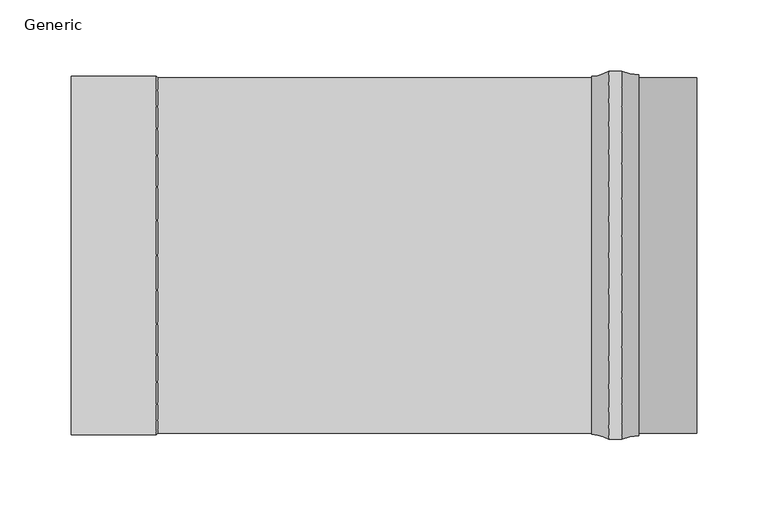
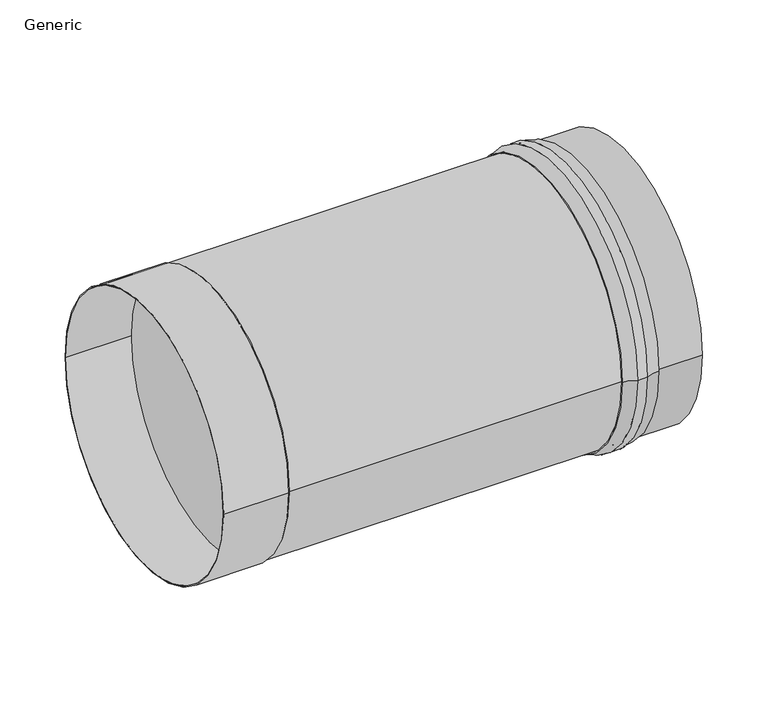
"""IFC4 building model written with IfcOpenShell, lengths in millimetres: pipe fitting geometry, CADS_Jeremias_Length_Socket : Generic."""

from ifc_helpers import new_model, si_unit, point, frame, origin, origin_2d, place, context, project, spatial, polyline, circle_curve, ellipse_curve, trimmed, segment, composite_curve, outline, extrude, source, transform, mapped, element, save
from ifc_brep_helpers import plane_surface, cylinder_surface, revolved_surface, advanced_brep


def generic_6cb5bec8(model_context):
    return source(origin(), model_context, "Body", "SolidModel", [
        advanced_brep(
        [(459.0, 125.0, 0.0), (459.0, 126.9765092, 0.0), (459.0, -126.9765092, 0.0), (459.0, -125.0, 0.0), (426.0, 125.0, 0.0), (426.0, -125.0, 0.0), (426.0, 125.9881891, 0.0), (426.0, -125.9881891, 0.0), (438.0, 129.4883201, 0.0), (438.0, -129.4883201, 0.0), (447.0, 129.4883201, 0.0), (447.0, -129.4883201, 0.0)],
        [
            (0, 1),
            (1, 2, circle_curve(frame((459.0, 0.0, 0.0), z_axis=(1.0, 0.0, 0.0), x_axis=(0.0, -1.0, 0.0)), 126.9765092)),
            (2, 3),
            (3, 0, circle_curve(frame((459.0, 0.0, 0.0), z_axis=(-1.0, 0.0, 0.0), x_axis=(0.0, -1.0, 0.0)), 125.0)),
            (2, 1, circle_curve(frame((459.0, 0.0, 0.0), z_axis=(1.0, 0.0, 0.0), x_axis=(0.0, -1.0, 0.0)), 126.9765092)),
            (0, 3, circle_curve(frame((459.0, 0.0, 0.0), z_axis=(-1.0, 0.0, 0.0), x_axis=(0.0, -1.0, 0.0)), 125.0)),
            (4, 0),
            (3, 5),
            (5, 4, circle_curve(frame((426.0, 0.0, 0.0), z_axis=(-1.0, 0.0, 0.0), x_axis=(0.0, -1.0, 0.0)), 125.0)),
            (4, 5, circle_curve(frame((426.0, 0.0, 0.0), z_axis=(-1.0, 0.0, 0.0), x_axis=(0.0, -1.0, 0.0)), 125.0)),
            (6, 4),
            (5, 7),
            (7, 6, circle_curve(frame((426.0, 0.0, 0.0), z_axis=(-1.0, 0.0, 0.0), x_axis=(0.0, -1.0, 0.0)), 125.9881891)),
            (6, 7, circle_curve(frame((426.0, 0.0, 0.0), z_axis=(-1.0, 0.0, 0.0), x_axis=(0.0, -1.0, 0.0)), 125.9881891)),
            (8, 6, circle_curve(frame((426.0, 148.3089134, 0.0), z_axis=(0.0, 0.0, -1.0), x_axis=(-1.0, 0.0, 0.0)), 22.3207242)),
            (7, 9, circle_curve(frame((426.0, -148.3089134, 0.0), z_axis=(0.0, 0.0, -1.0), x_axis=(-1.0, 0.0, 0.0)), 22.3207242)),
            (9, 8, circle_curve(frame((438.0, 0.0, 0.0), z_axis=(-1.0, 0.0, 0.0), x_axis=(0.0, -1.0, 0.0)), 129.4883201)),
            (8, 9, circle_curve(frame((438.0, 0.0, 0.0), z_axis=(-1.0, 0.0, 0.0), x_axis=(0.0, -1.0, 0.0)), 129.4883201)),
            (10, 8),
            (9, 11),
            (11, 10, circle_curve(frame((447.0, 0.0, 0.0), z_axis=(-1.0, 0.0, 0.0), x_axis=(0.0, -1.0, 0.0)), 129.4883201)),
            (10, 11, circle_curve(frame((447.0, 0.0, 0.0), z_axis=(-1.0, 0.0, 0.0), x_axis=(0.0, -1.0, 0.0)), 129.4883201)),
            (1, 10, circle_curve(frame((459.0, 156.8969932, 0.0), z_axis=(0.0, 0.0, -1.0), x_axis=(-1.0, 0.0, 0.0)), 29.920484)),
            (11, 2, circle_curve(frame((459.0, -156.8969932, 0.0), z_axis=(0.0, 0.0, -1.0), x_axis=(-1.0, 0.0, 0.0)), 29.920484)),
        ],
        [
            plane_surface(frame((459.0, 0.0, 0.0), z_axis=(1.0, 0.0, 0.0), x_axis=(0.0, -1.0, 0.0))),
            revolved_surface(polyline([(459.0, -125.0, 0.0), (426.0, -125.0, 0.0)]), (-1497.5, 0.0, 0.0), (1.0, 0.0, 0.0)),
            plane_surface(frame((426.0, 0.0, 0.0), z_axis=(-1.0, 0.0, 0.0), x_axis=(0.0, -1.0, 0.0))),
            revolved_surface(trimmed(ellipse_curve(frame((426.0, -148.3089134, 0.0), z_axis=(0.0, 0.0, -1.0), x_axis=(-1.0, 0.0, 0.0)), 22.3207242, 22.3207242), [point((426.0, -125.9881891, 0.0))], [point((438.0, -129.4883201, 0.0))], True, "CARTESIAN"), (-1497.5, 0.0, 0.0), (1.0, 0.0, 0.0)),
            cylinder_surface(frame((-1497.5, 0.0, 0.0), z_axis=(1.0, 0.0, 0.0), x_axis=(0.0, -1.0, 0.0)), 129.4883201),
            revolved_surface(trimmed(ellipse_curve(frame((459.0, -156.8969932, 0.0), z_axis=(0.0, 0.0, -1.0), x_axis=(-1.0, 0.0, 0.0)), 29.920484, 29.920484), [point((447.0, -129.4883201, 0.0))], [point((459.0, -126.9765092, 0.0))], True, "CARTESIAN"), (-1497.5, 0.0, 0.0), (1.0, 0.0, 0.0)),
        ],
        [
            (0, [[1, 2, 3, 4]]),
            (0, [[-3, 5, -1, 6]]),
            (1, [[7, -4, 8, 9]]),
            (1, [[-8, -6, -7, 10]]),
            (2, [[11, -9, 12, 13]]),
            (2, [[-12, -10, -11, 14]]),
            (3, [[15, -13, 16, 17]]),
            (3, [[-16, -14, -15, 18]]),
            (4, [[19, -17, 20, 21]]),
            (4, [[-20, -18, -19, 22]]),
            (5, [[23, -21, 24, -2]]),
            (5, [[-24, -22, -23, -5]]),
        ],
    ),
        advanced_brep(
        [(60.0, 125.0, 0.0), (60.0, -125.0, 0.0), (121.0, -125.0, 0.0), (121.0, 125.0, 0.0), (120.0, -126.0, 0.0), (120.0, 126.0, 0.0), (60.0, -126.0, 0.0), (60.0, 126.0, 0.0)],
        [
            (0, 1, circle_curve(frame((60.0, 0.0, 0.0), z_axis=(-1.0, 0.0, 0.0), x_axis=(0.0, -1.0, 0.0)), 125.0)),
            (1, 2),
            (2, 3, circle_curve(frame((121.0, 0.0, 0.0), z_axis=(1.0, 0.0, 0.0), x_axis=(0.0, -1.0, 0.0)), 125.0)),
            (3, 0),
            (2, 4),
            (4, 5, circle_curve(frame((120.0, 0.0, 0.0), z_axis=(1.0, 0.0, 0.0), x_axis=(0.0, -1.0, 0.0)), 126.0)),
            (5, 3),
            (4, 6),
            (6, 7, circle_curve(frame((60.0, 0.0, 0.0), z_axis=(1.0, 0.0, 0.0), x_axis=(0.0, -1.0, 0.0)), 126.0)),
            (7, 5),
            (1, 0, circle_curve(frame((60.0, 0.0, 0.0), z_axis=(-1.0, 0.0, 0.0), x_axis=(0.0, 1.0, 0.0)), 125.0)),
            (3, 2, circle_curve(frame((121.0, 0.0, 0.0), z_axis=(1.0, 0.0, 0.0), x_axis=(0.0, 1.0, 0.0)), 125.0)),
            (5, 4, circle_curve(frame((120.0, 0.0, 0.0), z_axis=(1.0, 0.0, 0.0), x_axis=(0.0, 1.0, 0.0)), 126.0)),
            (7, 6, circle_curve(frame((60.0, 0.0, 0.0), z_axis=(1.0, 0.0, 0.0), x_axis=(0.0, 1.0, 0.0)), 126.0)),
        ],
        [
            revolved_surface(polyline([(121.0, -125.0, 0.0), (60.0, -125.0, 0.0)]), (60.0, 0.0, 0.0), (1.0, 0.0, 0.0)),
            revolved_surface(polyline([(120.0, -126.0, 0.0), (121.0, -125.0, 0.0)]), (60.0, 0.0, 0.0), (1.0, 0.0, 0.0)),
            cylinder_surface(frame((60.0, 0.0, 0.0), z_axis=(1.0, 0.0, 0.0), x_axis=(0.0, -1.0, 0.0)), 126.0),
            revolved_surface(polyline([(121.0, 125.0, 0.0), (60.0, 125.0, 0.0)]), (60.0, 0.0, 0.0), (1.0, 0.0, 0.0)),
            revolved_surface(polyline([(120.0, 126.0, 0.0), (121.0, 125.0, 0.0)]), (60.0, 0.0, 0.0), (1.0, 0.0, 0.0)),
            cylinder_surface(frame((60.0, 0.0, 0.0), z_axis=(1.0, 0.0, 0.0), x_axis=(0.0, 1.0, 0.0)), 126.0),
            plane_surface(frame((60.0, 0.0, 0.0), z_axis=(-1.0, 0.0, 0.0), x_axis=(0.0, 1.0, 0.0))),
        ],
        [
            (0, [[1, 2, 3, 4]]),
            (1, [[-3, 5, 6, 7]]),
            (2, [[-6, 8, 9, 10]]),
            (3, [[11, -4, 12, -2]]),
            (4, [[-12, -7, 13, -5]]),
            (5, [[-13, -10, 14, -8]]),
            (6, [[-14, -9], [-11, -1]]),
        ],
    ),
        extrude(outline(composite_curve([segment(trimmed(circle_curve(origin_2d(), 125.0), [point((-125.0, 0.0))], [point((125.0, 0.0))], False, "CARTESIAN"), True, "CONTINUOUS"), segment(trimmed(circle_curve(origin_2d(), 125.0), [point((125.0, 0.0))], [point((-125.0, 0.0))], False, "CARTESIAN"), True, "CONTINUOUS")], self_intersect=False)), frame((440.0, 0.0, 0.0), z_axis=(1.0, 0.0, 0.0), x_axis=(0.0, 1.0, 0.0)), (0.0, 0.0, 1.0), 60.0),
        extrude(outline(composite_curve([segment(trimmed(circle_curve(origin_2d(), 125.0), [point((125.0, 0.0))], [point((-125.0, 0.0))], False, "CARTESIAN"), True, "CONTINUOUS"), segment(trimmed(circle_curve(origin_2d(), 125.0), [point((-125.0, 0.0))], [point((125.0, 0.0))], False, "CARTESIAN"), True, "CONTINUOUS")], self_intersect=False)), frame((120.0, 0.0, 0.0), z_axis=(1.0, 0.0, 0.0), x_axis=(0.0, 1.0, 0.0)), (0.0, 0.0, 1.0), 320.0),
    ])


if __name__ == "__main__":
    model = new_model("IFC4")
    model_context = context("Model", 3, world=origin())
    ifc_project = project(units=[si_unit("LENGTHUNIT", "METRE", prefix="MILLI")], contexts=[model_context])
    site = spatial("IfcSite", under=ifc_project)
    building = spatial("IfcBuilding", under=site)
    placement = place(None, origin())
    generic_shape = generic_6cb5bec8(model_context)
    element("IfcPipeFitting", 1, ObjectType="CADS_Jeremias_Length_Socket : Generic", at=placement, inside=building, context=model_context, shape_type="MappedRepresentation", body=[
        mapped(generic_shape, transform((0.0, 0.0, 0.0), x_axis=(1.0, 0.0, 0.0), y_axis=(0.0, 1.0, 0.0), z_axis=(0.0, 0.0, 1.0))),
    ])
    save(model, "model.ifc")
